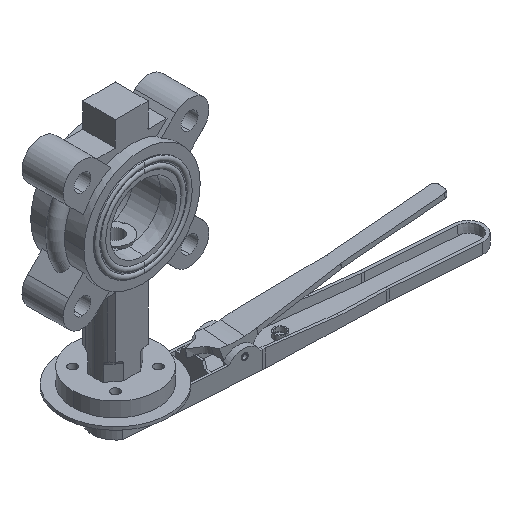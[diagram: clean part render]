
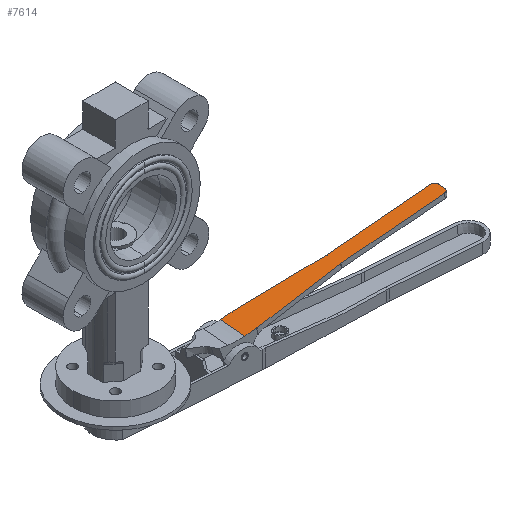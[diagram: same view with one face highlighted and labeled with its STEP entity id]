
A CAD part, isometric view. The second image highlights one B-rep face of the part: STEP entity #7614.
In plain terms, the highlighted planar face has unit normal (-0.165, 0.012, 0.986) as drawn and (0, 1, 0) by its records, which use the part's own axes.
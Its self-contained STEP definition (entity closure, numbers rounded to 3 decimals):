
#55 = EDGE_CURVE ( 'NONE', #3032, #801, #10039, .T. ) ;
#89 = EDGE_CURVE ( 'NONE', #6580, #8386, #3146, .T. ) ;
#146 = VECTOR ( 'NONE', #8776, 1000. ) ;
#272 = DIRECTION ( 'NONE',  ( -0.997, 0., -0.071 ) ) ;
#416 = DIRECTION ( 'NONE',  ( 0., 1., 0. ) ) ;
#517 = CIRCLE ( 'NONE', #7900, 3. ) ;
#541 = LINE ( 'NONE', #5027, #1678 ) ;
#599 = ORIENTED_EDGE ( 'NONE', *, *, #89, .T. ) ;
#612 = DIRECTION ( 'NONE',  ( 0., 0., -1. ) ) ;
#670 = DIRECTION ( 'NONE',  ( 0., 0., -1. ) ) ;
#716 = CARTESIAN_POINT ( 'NONE',  ( 16.107, 0., -10.992 ) ) ;
#782 = CIRCLE ( 'NONE', #2597, 3. ) ;
#796 = CARTESIAN_POINT ( 'NONE',  ( 167., 0., -6. ) ) ;
#801 = VERTEX_POINT ( 'NONE', #6523 ) ;
#820 = VECTOR ( 'NONE', #6773, 1000. ) ;
#963 = CARTESIAN_POINT ( 'NONE',  ( 167., 0., 6. ) ) ;
#1095 = DIRECTION ( 'NONE',  ( 0., 0., -1. ) ) ;
#1177 = AXIS2_PLACEMENT_3D ( 'NONE', #8145, #3183, #4782 ) ;
#1484 = VECTOR ( 'NONE', #670, 1000. ) ;
#1490 = DIRECTION ( 'NONE',  ( 0., 0., -1. ) ) ;
#1521 = EDGE_CURVE ( 'NONE', #4728, #6580, #782, .T. ) ;
#1675 = EDGE_CURVE ( 'NONE', #8386, #8523, #4222, .T. ) ;
#1678 = VECTOR ( 'NONE', #9240, 1000. ) ;
#1808 = EDGE_CURVE ( 'NONE', #3791, #9943, #9797, .T. ) ;
#1871 = AXIS2_PLACEMENT_3D ( 'NONE', #1942, #7756, #1095 ) ;
#1942 = CARTESIAN_POINT ( 'NONE',  ( 86.107, 0., 9. ) ) ;
#2226 = CARTESIAN_POINT ( 'NONE',  ( 167., 0., 3. ) ) ;
#2309 = DIRECTION ( 'NONE',  ( 0., 1., 0. ) ) ;
#2346 = CARTESIAN_POINT ( 'NONE',  ( 15.893, 0., -11. ) ) ;
#2390 = CARTESIAN_POINT ( 'NONE',  ( 15.893, 0., 11. ) ) ;
#2542 = EDGE_CURVE ( 'NONE', #5383, #9343, #2929, .T. ) ;
#2597 = AXIS2_PLACEMENT_3D ( 'NONE', #6497, #2309, #612 ) ;
#2929 = LINE ( 'NONE', #5538, #5964 ) ;
#3032 = VERTEX_POINT ( 'NONE', #2346 ) ;
#3074 = EDGE_CURVE ( 'NONE', #6802, #8272, #6248, .T. ) ;
#3075 = ORIENTED_EDGE ( 'NONE', *, *, #9436, .T. ) ;
#3114 = ORIENTED_EDGE ( 'NONE', *, *, #7302, .F. ) ;
#3146 = LINE ( 'NONE', #4060, #3700 ) ;
#3183 = DIRECTION ( 'NONE',  ( 0., 1., 0. ) ) ;
#3198 = CARTESIAN_POINT ( 'NONE',  ( 6.654, 0., 6. ) ) ;
#3207 = ORIENTED_EDGE ( 'NONE', *, *, #8881, .T. ) ;
#3349 = CARTESIAN_POINT ( 'NONE',  ( 86.107, 0., -9. ) ) ;
#3688 = DIRECTION ( 'NONE',  ( 0., 0., -1. ) ) ;
#3700 = VECTOR ( 'NONE', #4289, 1000. ) ;
#3763 = LINE ( 'NONE', #4565, #7398 ) ;
#3791 = VERTEX_POINT ( 'NONE', #963 ) ;
#3978 = CARTESIAN_POINT ( 'NONE',  ( 16.107, 0., 10.992 ) ) ;
#3979 = ORIENTED_EDGE ( 'NONE', *, *, #3074, .T. ) ;
#4007 = VERTEX_POINT ( 'NONE', #10947 ) ;
#4060 = CARTESIAN_POINT ( 'NONE',  ( 6.701, 0., 11.664 ) ) ;
#4222 = CIRCLE ( 'NONE', #1871, 3. ) ;
#4289 = DIRECTION ( 'NONE',  ( 0.997, 0., -0.071 ) ) ;
#4317 = ORIENTED_EDGE ( 'NONE', *, *, #10014, .T. ) ;
#4432 = CARTESIAN_POINT ( 'NONE',  ( 6.654, 0., 11. ) ) ;
#4565 = CARTESIAN_POINT ( 'NONE',  ( 6.654, 0., -6. ) ) ;
#4693 = CARTESIAN_POINT ( 'NONE',  ( 86.107, 0., 6. ) ) ;
#4728 = VERTEX_POINT ( 'NONE', #2390 ) ;
#4782 = DIRECTION ( 'NONE',  ( 0., 0., -1. ) ) ;
#4839 = DIRECTION ( 'NONE',  ( 0., -1., 0. ) ) ;
#4857 = AXIS2_PLACEMENT_3D ( 'NONE', #7483, #4839, #1490 ) ;
#5027 = CARTESIAN_POINT ( 'NONE',  ( 6.654, 0., 11. ) ) ;
#5208 = ORIENTED_EDGE ( 'NONE', *, *, #55, .T. ) ;
#5352 = LINE ( 'NONE', #6080, #146 ) ;
#5383 = VERTEX_POINT ( 'NONE', #10652 ) ;
#5421 = DIRECTION ( 'NONE',  ( -1., 0., 0. ) ) ;
#5538 = CARTESIAN_POINT ( 'NONE',  ( 8.264, 0., -11.553 ) ) ;
#5569 = ORIENTED_EDGE ( 'NONE', *, *, #7781, .T. ) ;
#5695 = DIRECTION ( 'NONE',  ( 1., 0., 0. ) ) ;
#5841 = VECTOR ( 'NONE', #5695, 1000. ) ;
#5863 = LINE ( 'NONE', #3198, #5841 ) ;
#5899 = PLANE ( 'NONE',  #4857 ) ;
#5964 = VECTOR ( 'NONE', #272, 1000. ) ;
#6080 = CARTESIAN_POINT ( 'NONE',  ( 6.654, 0., 11. ) ) ;
#6248 = CIRCLE ( 'NONE', #1177, 3. ) ;
#6497 = CARTESIAN_POINT ( 'NONE',  ( 15.893, 0., 8. ) ) ;
#6523 = CARTESIAN_POINT ( 'NONE',  ( 6.654, 0., -11. ) ) ;
#6580 = VERTEX_POINT ( 'NONE', #3978 ) ;
#6642 = FACE_OUTER_BOUND ( 'NONE', #9839, .T. ) ;
#6666 = VERTEX_POINT ( 'NONE', #4432 ) ;
#6773 = DIRECTION ( 'NONE',  ( -1., 0., 0. ) ) ;
#6802 = VERTEX_POINT ( 'NONE', #7129 ) ;
#7078 = AXIS2_PLACEMENT_3D ( 'NONE', #9044, #10417, #7870 ) ;
#7129 = CARTESIAN_POINT ( 'NONE',  ( 170., 0., -3. ) ) ;
#7173 = CARTESIAN_POINT ( 'NONE',  ( 85.893, 0., 6.008 ) ) ;
#7250 = CIRCLE ( 'NONE', #7078, 3. ) ;
#7302 = EDGE_CURVE ( 'NONE', #6666, #801, #5352, .T. ) ;
#7398 = VECTOR ( 'NONE', #5421, 1000. ) ;
#7483 = CARTESIAN_POINT ( 'NONE',  ( 6.654, 0., 11. ) ) ;
#7614 = ADVANCED_FACE ( 'NONE', ( #6642 ), #5899, .F. ) ;
#7700 = ORIENTED_EDGE ( 'NONE', *, *, #10899, .F. ) ;
#7748 = DIRECTION ( 'NONE',  ( 0., -1., 0. ) ) ;
#7756 = DIRECTION ( 'NONE',  ( 0., -1., 0. ) ) ;
#7781 = EDGE_CURVE ( 'NONE', #4007, #5383, #517, .T. ) ;
#7813 = AXIS2_PLACEMENT_3D ( 'NONE', #2226, #416, #3688 ) ;
#7870 = DIRECTION ( 'NONE',  ( 0., 0., -1. ) ) ;
#7900 = AXIS2_PLACEMENT_3D ( 'NONE', #3349, #7748, #11135 ) ;
#8145 = CARTESIAN_POINT ( 'NONE',  ( 167., 0., -3. ) ) ;
#8234 = LINE ( 'NONE', #9994, #1484 ) ;
#8272 = VERTEX_POINT ( 'NONE', #796 ) ;
#8386 = VERTEX_POINT ( 'NONE', #7173 ) ;
#8429 = ORIENTED_EDGE ( 'NONE', *, *, #1675, .T. ) ;
#8523 = VERTEX_POINT ( 'NONE', #4693 ) ;
#8615 = ORIENTED_EDGE ( 'NONE', *, *, #10945, .T. ) ;
#8776 = DIRECTION ( 'NONE',  ( 0., 0., -1. ) ) ;
#8881 = EDGE_CURVE ( 'NONE', #8272, #4007, #3763, .T. ) ;
#9044 = CARTESIAN_POINT ( 'NONE',  ( 15.893, 0., -8. ) ) ;
#9240 = DIRECTION ( 'NONE',  ( -1., 0., 0. ) ) ;
#9343 = VERTEX_POINT ( 'NONE', #716 ) ;
#9345 = ORIENTED_EDGE ( 'NONE', *, *, #1808, .T. ) ;
#9436 = EDGE_CURVE ( 'NONE', #9343, #3032, #7250, .T. ) ;
#9797 = CIRCLE ( 'NONE', #7813, 3. ) ;
#9839 = EDGE_LOOP ( 'NONE', ( #8615, #9345, #4317, #3979, #3207, #5569, #10853, #3075, #5208, #3114, #7700, #10543, #599, #8429 ) ) ;
#9879 = CARTESIAN_POINT ( 'NONE',  ( 170., 0., 3. ) ) ;
#9943 = VERTEX_POINT ( 'NONE', #9879 ) ;
#9994 = CARTESIAN_POINT ( 'NONE',  ( 170., 0., 11. ) ) ;
#10014 = EDGE_CURVE ( 'NONE', #9943, #6802, #8234, .T. ) ;
#10039 = LINE ( 'NONE', #10881, #820 ) ;
#10417 = DIRECTION ( 'NONE',  ( 0., 1., 0. ) ) ;
#10543 = ORIENTED_EDGE ( 'NONE', *, *, #1521, .T. ) ;
#10652 = CARTESIAN_POINT ( 'NONE',  ( 85.893, 0., -6.008 ) ) ;
#10853 = ORIENTED_EDGE ( 'NONE', *, *, #2542, .T. ) ;
#10881 = CARTESIAN_POINT ( 'NONE',  ( 6.654, 0., -11. ) ) ;
#10899 = EDGE_CURVE ( 'NONE', #4728, #6666, #541, .T. ) ;
#10945 = EDGE_CURVE ( 'NONE', #8523, #3791, #5863, .T. ) ;
#10947 = CARTESIAN_POINT ( 'NONE',  ( 86.107, 0., -6. ) ) ;
#11135 = DIRECTION ( 'NONE',  ( 0., 0., -1. ) ) ;
